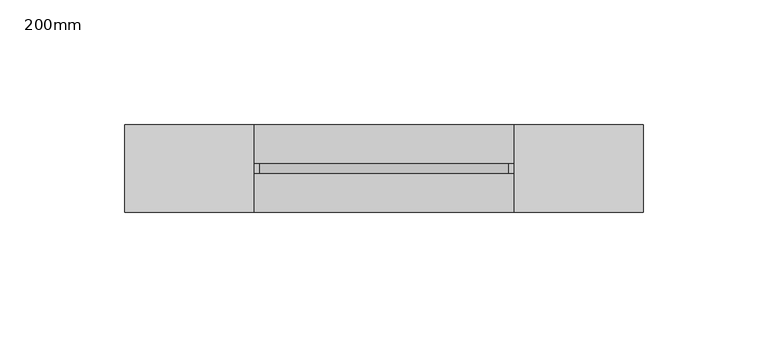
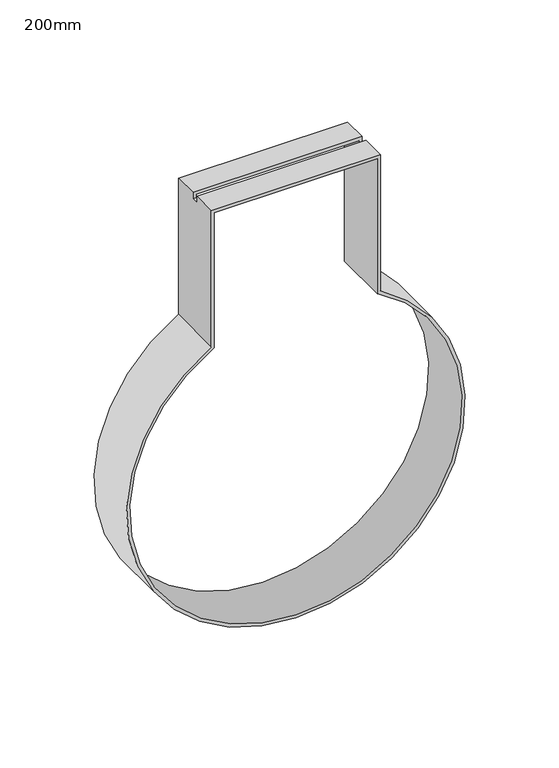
"""IFC4 building model written with IfcOpenShell, lengths in millimetres: pipe fitting geometry, PAVCO_PVC QS Soporte Deslizante Horizontal : 200mm."""

from ifc_helpers import new_model, si_unit, frame, origin, place, context, project, spatial, polyline, circle_curve, source, transform, mapped, element, save
from ifc_brep_helpers import plane_surface, cylinder_surface, revolved_surface, advanced_brep


def pipe_fitting_200mm_fff35f7f(model_context):
    return source(origin(), model_context, "Body", "AdvancedBrep", [
        advanced_brep(
        [(52.0, -17.5, 180.0), (52.0, -17.5, 91.566642), (52.0, 17.5, 91.566642), (52.0, 17.5, 180.0), (52.0, 2.1, 180.0), (52.0, 2.1, 176.0), (52.0, -2.1, 176.0), (52.0, -2.1, 180.0), (50.0, 17.5, 178.0), (50.0, 17.5, 90.4044431), (50.0, -17.5, 90.4044431), (50.0, -17.5, 178.0), (50.0, -2.1, 178.0), (50.0, -2.1, 176.0), (50.0, 2.1, 176.0), (50.0, 2.1, 178.0), (-52.0, -17.5, 91.566642), (-52.0, 17.5, 91.566642), (-52.0, 17.5, 180.0), (-50.0, 17.5, 178.0), (-50.0, 17.5, 90.4044431), (-50.0, -17.5, 90.4044431), (-52.0, -17.5, 180.0), (-50.0, -17.5, 178.0), (-52.0, -2.1, 180.0), (-52.0, -2.1, 176.0), (-52.0, 2.1, 176.0), (-52.0, 2.1, 180.0), (-50.0, 2.1, 178.0), (-50.0, 2.1, 176.0), (-50.0, -2.1, 176.0), (-50.0, -2.1, 178.0)],
        [
            (0, 1),
            (1, 2),
            (2, 3),
            (3, 4),
            (4, 5),
            (5, 6),
            (6, 7),
            (7, 0),
            (8, 9),
            (9, 10),
            (10, 11),
            (11, 12),
            (12, 13),
            (13, 14),
            (14, 15),
            (15, 8),
            (1, 16, circle_curve(frame((0.0, -17.5, 1.5), z_axis=(0.0, 1.0, 0.0), x_axis=(0.4901960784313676, 0.0, 0.8716121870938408)), 104.0)),
            (16, 17),
            (17, 2, circle_curve(frame((0.0, 17.5, 1.5), z_axis=(0.0, -1.0, 0.0), x_axis=(0.4901960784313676, 0.0, 0.8716121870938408)), 104.0)),
            (17, 18),
            (18, 3),
            (8, 19),
            (19, 20),
            (20, 9, circle_curve(frame((0.0, 17.5, 1.5), z_axis=(0.0, -1.0, 0.0), x_axis=(0.4901960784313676, 0.0, 0.8716121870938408)), 102.0)),
            (20, 21),
            (21, 10, circle_curve(frame((0.0, -17.5, 1.5), z_axis=(0.0, -1.0, 0.0), x_axis=(0.4901960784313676, 0.0, 0.8716121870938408)), 102.0)),
            (0, 22),
            (22, 16),
            (21, 23),
            (23, 11),
            (22, 24),
            (24, 25),
            (25, 26),
            (26, 27),
            (27, 18),
            (19, 28),
            (28, 29),
            (29, 30),
            (30, 31),
            (31, 23),
            (27, 4),
            (7, 24),
            (15, 28),
            (31, 12),
            (5, 14),
            (13, 6),
            (29, 26),
            (25, 30),
        ],
        [
            plane_surface(frame((52.0, -17.5, 180.0), z_axis=(1.0, 0.0, 0.0), x_axis=(0.0, 0.0, -1.0))),
            plane_surface(frame((50.0, 17.5, 178.0), z_axis=(-1.0, 0.0, 0.0), x_axis=(0.0, 0.0, -1.0))),
            cylinder_surface(frame((0.0, 0.0, 1.5), z_axis=(0.0, 1.0, 0.0), x_axis=(0.4901960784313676, 0.0, 0.8716121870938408)), 104.0),
            plane_surface(frame((0.0, 17.5, 1.5), z_axis=(0.0, 1.0, 0.0), x_axis=(0.4901960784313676, 0.0, 0.8716121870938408))),
            revolved_surface(polyline([(49.999999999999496, 17.5, 90.40444308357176), (49.999999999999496, -17.5, 90.40444308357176)]), (0.0, 0.0, 1.5), (0.0, 1.0, 0.0)),
            plane_surface(frame((0.0, -17.5, 1.5), z_axis=(0.0, -1.0, 0.0), x_axis=(0.4901960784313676, 0.0, 0.8716121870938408))),
            plane_surface(frame((-52.0, -17.5, 91.566642), z_axis=(-1.0, 0.0, 0.0), x_axis=(0.0, 0.0, 1.0))),
            plane_surface(frame((-50.0, 17.5, 90.4044431), z_axis=(1.0, 0.0, 0.0), x_axis=(0.0, 0.0, 1.0))),
            plane_surface(frame((-52.0, -17.5, 180.0), z_axis=(0.0, 0.0, 1.0), x_axis=(1.0, 0.0, 0.0))),
            plane_surface(frame((-50.0, 17.5, 178.0), z_axis=(0.0, 0.0, -1.0), x_axis=(1.0, 0.0, 0.0))),
            plane_surface(frame((-52.0, 2.1, 176.0), z_axis=(0.0, 0.0, 1.0), x_axis=(1.0, 0.0, 0.0))),
            plane_surface(frame((52.0, 2.1, 180.0), z_axis=(0.0, -1.0, 0.0), x_axis=(0.0, 0.0, -1.0))),
            plane_surface(frame((-52.0, -2.1, 180.0), z_axis=(0.0, 1.0, 0.0), x_axis=(0.0, 0.0, -1.0))),
        ],
        [
            (0, [[1, 2, 3, 4, 5, 6, 7, 8]]),
            (1, [[9, 10, 11, 12, 13, 14, 15, 16]]),
            (2, [[-2, 17, 18, 19]]),
            (3, [[-3, -19, 20, 21], [-9, 22, 23, 24]]),
            (4, [[-10, -24, 25, 26]]),
            (5, [[-1, 27, 28, -17], [-11, -26, 29, 30]]),
            (6, [[-18, -28, 31, 32, 33, 34, 35, -20]]),
            (7, [[-23, 36, 37, 38, 39, 40, -29, -25]]),
            (8, [[-21, -35, 41, -4]]),
            (8, [[-27, -8, 42, -31]]),
            (9, [[-22, -16, 43, -36]]),
            (9, [[-30, -40, 44, -12]]),
            (10, [[45, -14, 46, -6]]),
            (10, [[47, -33, 48, -38]]),
            (11, [[-45, -5, -41, -34, -47, -37, -43, -15]]),
            (12, [[-46, -13, -44, -39, -48, -32, -42, -7]]),
        ],
    ),
    ])


if __name__ == "__main__":
    model = new_model("IFC4")
    model_context = context("Model", 3, world=origin())
    ifc_project = project(units=[si_unit("LENGTHUNIT", "METRE", prefix="MILLI")], contexts=[model_context])
    site = spatial("IfcSite", under=ifc_project)
    building = spatial("IfcBuilding", under=site)
    placement = place(None, origin())
    pipe_fitting_200mm_shape = pipe_fitting_200mm_fff35f7f(model_context)
    element("IfcPipeFitting", 1, ObjectType="PAVCO_PVC QS Soporte Deslizante Horizontal : 200mm", at=placement, inside=building, context=model_context, shape_type="MappedRepresentation", body=[
        mapped(pipe_fitting_200mm_shape, transform((0.0, 0.0, 0.0), x_axis=(1.0, 0.0, 0.0), y_axis=(0.0, 1.0, 0.0), z_axis=(0.0, 0.0, 1.0))),
    ])
    save(model, "model.ifc")
